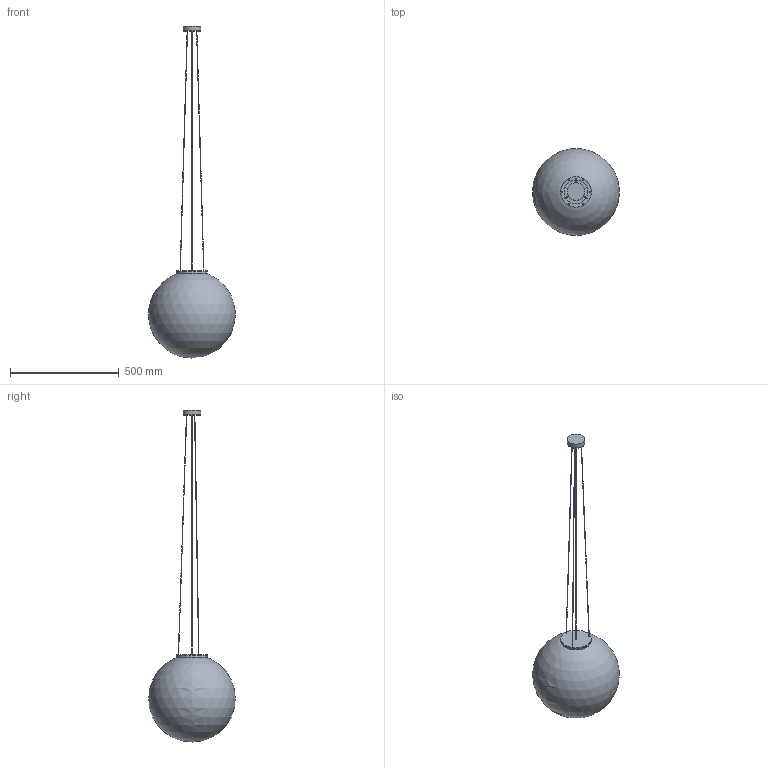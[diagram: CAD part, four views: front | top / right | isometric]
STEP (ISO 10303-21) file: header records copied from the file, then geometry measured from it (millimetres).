
FILE_DESCRIPTION(/* description */ (''),/* implementation_level */ '2;1');
FILE_NAME(/* name */ 'C:/Users/LukasGröber/GMS Cloud/Groeber Mannheim Lichtwerke - Dokumente/Marketing/Produkte/3D Daten/Kugel Sahara Pendel Innen/Kugel Sahara 40 Pendel Innen.step',/* time_stamp */ '2022-07-08T12:11:46+02:00',/* author */ (''),/* organization */ (''),/* preprocessor_version */ 'ST-DEVELOPER v19',/* originating_system */ 'Autodesk Translation Framework v11.7.0.108',/* authorisation */ '');
FILE_SCHEMA (('AUTOMOTIVE_DESIGN { 1 0 10303 214 3 1 1 }'));
Length unit declared in the file: millimetre
Products named in the file (5): Kugel Sahara 40 Pendel Innen; Pendel Innen Aufhängung Kugeln 30-60; Pendel Innen LED Mönskappe (Modell); Baldachin klein Modell; Kugel Sahara 400 Öffnung 80
Assembly tree (4 placements, depth 3):
  Kugel Sahara 40 Pendel Innen
    Pendel Innen Aufhängung Kugeln 30-60
      Pendel Innen LED Mönskappe (Modell)
      Baldachin klein Modell
    Kugel Sahara 400 Öffnung 80
Bounding box: 399.96 x 397.05 x 1525.7 mm (x, y, z)
Volume: 2668016.5 mm3; surface area: 1051333.9 mm2
Topology: 7 solids, 7 shells, 53 faces, 83 edges, 55 vertices
Faces by surface type: plane 26, cylinder 18, bspline 6, sphere 2, torus 1
Full cylindrical faces by diameter (mm): 1.5 x6, 3 x3, 5 x6, 80 x2, 140 x1
Entity records: 2100 total; most frequent: CARTESIAN_POINT 1004, DIRECTION 214, ORIENTED_EDGE 162, AXIS2_PLACEMENT_3D 98, EDGE_CURVE 81, EDGE_LOOP 66, VERTEX_POINT 55, FACE_OUTER_BOUND 53
